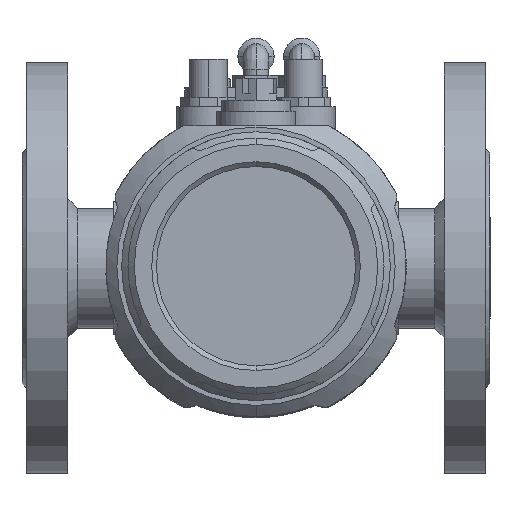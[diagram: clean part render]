
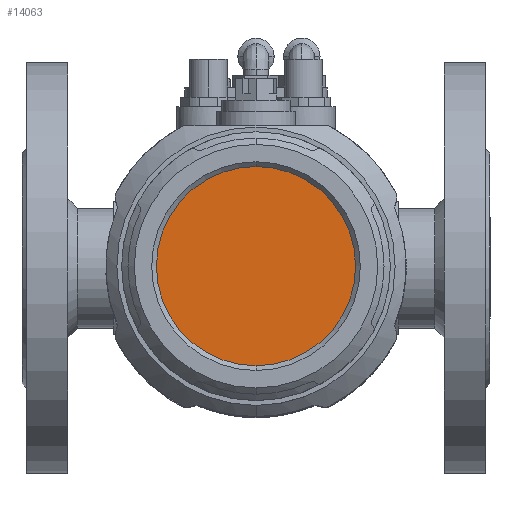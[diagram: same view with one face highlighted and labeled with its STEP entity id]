
A CAD part, top view. The second image highlights one B-rep face of the part: STEP entity #14063.
In plain terms, the highlighted planar face has unit normal (0, 0, 1) as drawn and (0, 1, 0) by its records, which use the part's own axes.
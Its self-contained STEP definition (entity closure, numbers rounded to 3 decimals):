
#9455=CARTESIAN_POINT('',(0.,20.,0.));
#9456=DIRECTION('',(0.,-1.,0.));
#9457=DIRECTION('',(-1.,0.,0.));
#9458=AXIS2_PLACEMENT_3D('',#9455,#9456,#9457);
#9460=CARTESIAN_POINT('',(0.,20.,0.));
#9461=DIRECTION('',(0.,-1.,0.));
#9462=DIRECTION('',(1.,0.,0.));
#9463=AXIS2_PLACEMENT_3D('',#9460,#9461,#9462);
#9481=CARTESIAN_POINT('',(-31.5,20.,0.));
#9482=CARTESIAN_POINT('',(31.5,20.,0.));
#9483=VERTEX_POINT('',#9481);
#9484=VERTEX_POINT('',#9482);
#14054=CARTESIAN_POINT('',(0.,20.,0.));
#14055=DIRECTION('',(0.,1.,0.));
#14056=DIRECTION('',(1.,0.,0.));
#14057=AXIS2_PLACEMENT_3D('',#14054,#14055,#14056);
#14058=PLANE('',#14057);
#14059=ORIENTED_EDGE('',*,*,#14034,.T.);
#14060=ORIENTED_EDGE('',*,*,#14048,.T.);
#14061=EDGE_LOOP('',(#14059,#14060));
#14062=FACE_OUTER_BOUND('',#14061,.F.);
#14063=ADVANCED_FACE('',(#14062),#14058,.T.);
#9459=CIRCLE('',#9458,31.5);
#9464=CIRCLE('',#9463,31.5);
#14034=EDGE_CURVE('',#9483,#9484,#9459,.T.);
#14048=EDGE_CURVE('',#9484,#9483,#9464,.T.);
